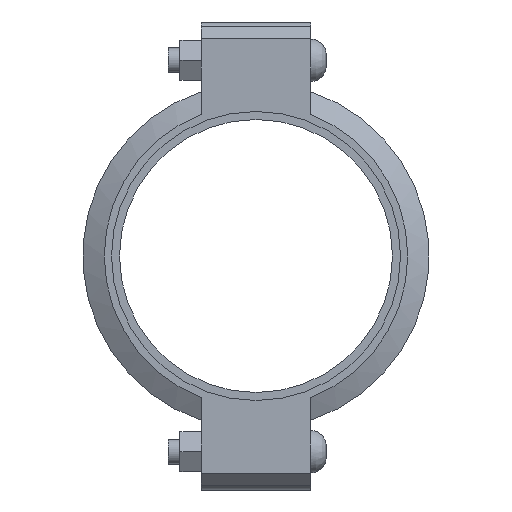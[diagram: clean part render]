
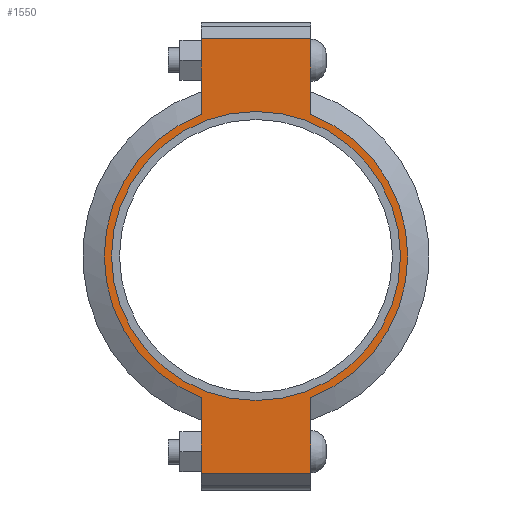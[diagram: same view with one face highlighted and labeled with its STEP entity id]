
A CAD part, left-side view. The second image highlights one B-rep face of the part: STEP entity #1550.
In plain terms, the highlighted planar face has unit normal (-1, 0, 0) as drawn and (0, 0, 1) by its records, which use the part's own axes.
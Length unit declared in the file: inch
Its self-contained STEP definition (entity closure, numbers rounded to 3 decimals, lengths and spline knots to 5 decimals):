
#174=LINE('',#2705,#267);
#182=LINE('',#2741,#275);
#189=LINE('',#2762,#282);
#198=LINE('',#2794,#291);
#199=LINE('',#2798,#292);
#200=LINE('',#2800,#293);
#267=VECTOR('',#2205,0.3937);
#275=VECTOR('',#2221,0.3937);
#282=VECTOR('',#2240,0.3937);
#291=VECTOR('',#2265,0.3937);
#292=VECTOR('',#2270,0.3937);
#293=VECTOR('',#2271,0.3937);
#349=FACE_BOUND('',#527,.T.);
#421=FACE_OUTER_BOUND('',#526,.T.);
#526=EDGE_LOOP('',(#1291,#1292,#1293,#1294,#1295,#1296,#1297,#1298));
#527=EDGE_LOOP('',(#1299));
#599=CIRCLE('',#1769,4.3125);
#625=CIRCLE('',#1828,4.53);
#626=CIRCLE('',#1829,4.53);
#691=VERTEX_POINT('',#2521);
#734=VERTEX_POINT('',#2702);
#735=VERTEX_POINT('',#2704);
#746=VERTEX_POINT('',#2736);
#747=VERTEX_POINT('',#2740);
#754=VERTEX_POINT('',#2759);
#755=VERTEX_POINT('',#2761);
#765=VERTEX_POINT('',#2797);
#766=VERTEX_POINT('',#2799);
#847=EDGE_CURVE('',#691,#691,#599,.T.);
#908=EDGE_CURVE('',#735,#734,#174,.T.);
#922=EDGE_CURVE('',#747,#746,#182,.T.);
#932=EDGE_CURVE('',#755,#754,#189,.T.);
#947=EDGE_CURVE('',#747,#734,#198,.T.);
#948=EDGE_CURVE('',#746,#755,#625,.T.);
#949=EDGE_CURVE('',#765,#754,#199,.T.);
#950=EDGE_CURVE('',#765,#766,#200,.T.);
#951=EDGE_CURVE('',#766,#735,#626,.T.);
#1291=ORIENTED_EDGE('',*,*,#947,.F.);
#1292=ORIENTED_EDGE('',*,*,#922,.T.);
#1293=ORIENTED_EDGE('',*,*,#948,.T.);
#1294=ORIENTED_EDGE('',*,*,#932,.T.);
#1295=ORIENTED_EDGE('',*,*,#949,.F.);
#1296=ORIENTED_EDGE('',*,*,#950,.T.);
#1297=ORIENTED_EDGE('',*,*,#951,.T.);
#1298=ORIENTED_EDGE('',*,*,#908,.T.);
#1299=ORIENTED_EDGE('',*,*,#847,.T.);
#1392=PLANE('',#1827);
#1550=ADVANCED_FACE('',(#421,#349),#1392,.T.);
#1769=AXIS2_PLACEMENT_3D('',#2523,#2081,#2082);
#1827=AXIS2_PLACEMENT_3D('',#2795,#2266,#2267);
#1828=AXIS2_PLACEMENT_3D('',#2796,#2268,#2269);
#1829=AXIS2_PLACEMENT_3D('',#2801,#2272,#2273);
#2081=DIRECTION('center_axis',(0.,0.,-1.));
#2082=DIRECTION('ref_axis',(-1.,0.,0.));
#2205=DIRECTION('',(-1.,0.,0.));
#2221=DIRECTION('',(1.,0.,0.));
#2240=DIRECTION('',(1.,0.,0.));
#2265=DIRECTION('',(0.,1.,0.));
#2266=DIRECTION('center_axis',(0.,0.,1.));
#2267=DIRECTION('ref_axis',(1.,0.,0.));
#2268=DIRECTION('center_axis',(0.,0.,1.));
#2269=DIRECTION('ref_axis',(-1.,0.,0.));
#2270=DIRECTION('',(0.,-1.,0.));
#2271=DIRECTION('',(-1.,0.,0.));
#2272=DIRECTION('center_axis',(0.,0.,1.));
#2273=DIRECTION('ref_axis',(-1.,0.,0.));
#2521=CARTESIAN_POINT('',(4.3125,0.,1.16));
#2523=CARTESIAN_POINT('Origin',(0.,0.,1.16));
#2702=CARTESIAN_POINT('',(-6.485,1.63,1.16));
#2704=CARTESIAN_POINT('',(-4.22658,1.63,1.16));
#2705=CARTESIAN_POINT('',(-6.985,1.63,1.16));
#2736=CARTESIAN_POINT('',(-4.22658,-1.63,1.16));
#2740=CARTESIAN_POINT('',(-6.485,-1.63,1.16));
#2741=CARTESIAN_POINT('',(6.985,-1.63,1.16));
#2759=CARTESIAN_POINT('',(6.485,-1.63,1.16));
#2761=CARTESIAN_POINT('',(4.22658,-1.63,1.16));
#2762=CARTESIAN_POINT('',(6.985,-1.63,1.16));
#2794=CARTESIAN_POINT('',(-6.485,0.815,1.16));
#2795=CARTESIAN_POINT('Origin',(0.,0.,
1.16));
#2796=CARTESIAN_POINT('Origin',(0.,0.,1.16));
#2797=CARTESIAN_POINT('',(6.485,1.63,1.16));
#2798=CARTESIAN_POINT('',(6.485,-0.815,1.16));
#2799=CARTESIAN_POINT('',(4.22658,1.63,1.16));
#2800=CARTESIAN_POINT('',(-6.985,1.63,1.16));
#2801=CARTESIAN_POINT('Origin',(0.,0.,1.16));
